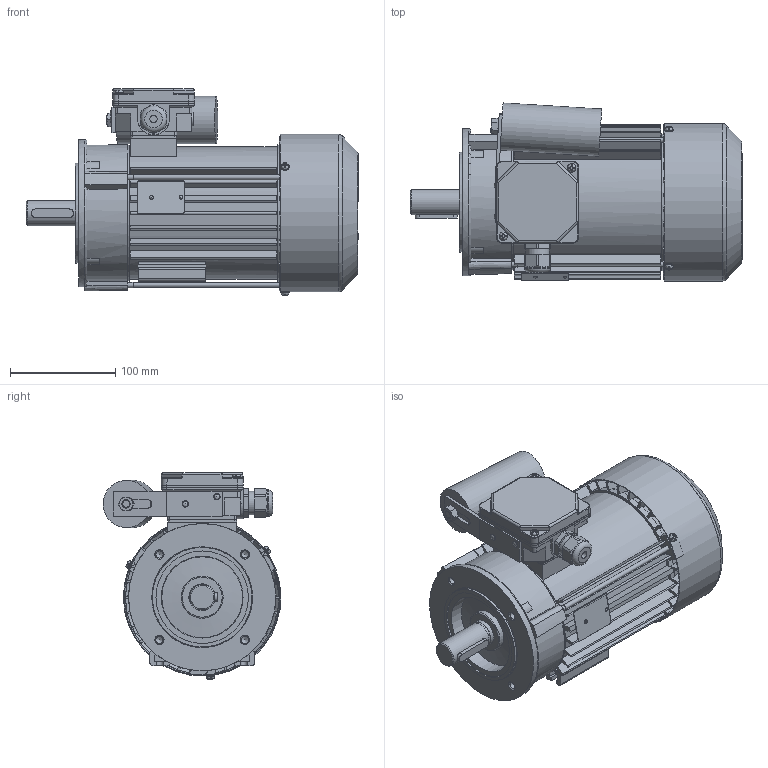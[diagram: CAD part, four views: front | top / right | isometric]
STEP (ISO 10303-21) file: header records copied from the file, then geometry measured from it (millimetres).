
FILE_DESCRIPTION( ( 'Unknown' ), '1' );
FILE_NAME( 'G:/Poczta Tk-1/STP/w.m.90/SEh90/SEKh90-.S2.stp', 'Unknown', ( 'K. Szlosek' ), ( 'BESEL S.A.' ), 'PSStep 17.0.49', 'Unknown', ' ' );
FILE_SCHEMA( ( 'AUTOMOTIVE_DESIGN { 1 0 10303 214 1 1 1 1 }' ) );
Length unit declared in the file: millimetre
Products named in the file (46): skrznka zaciskowa jednofazowa ; K4-2820 Uszczelka nr 2 Sh71,80; K2-1131 Podstawa skrzynki zaciskowej jednofazowa; K4-2999 Uchwyt kondensatora; Nit 4x12 po skróceniu; nakrętka M8; K4-0898 Tulejka uszczelniająca; Dławnica M20x1,5; K2-0860 Pokrywka skrzynki zaciskowej; Assem1; K1-1257 Kadłub S(E,M)h80-C i D; K2-1715 Przewietrznik; Wpust A8x7x40; K3-7808 Wał Sh90-.S; Wkręt samogwintujący M4x12; Tabliczka znamionowa 32x44; Kondensator zb 25-31,5uF Comar; K4-4489 Osłona przewietrznika Sh80,90-A,C; K4-2320 Uszczelka nr 1 Sh71,80; K2-2027 Tarcza łożyskowa P S(E,M)h80-.A,C; Wkręt samogwintujący M4x8; Łożysko 6205; Łożysko 6204; Śruba ściągająca E_M5x168; Nitokołek A 2x6; K3-7773 Tarcza kołnierzowa B14_2 SKh90-..2
Assembly tree (52 placements, depth 3):
  Assem1
    K1-1257 Kadłub S(E,M)h80-C i D
    K2-1715 Przewietrznik
    Wpust A8x7x40
    K3-7808 Wał Sh90-.S
    Wkręt samogwintujący M4x12  x2
    Tabliczka znamionowa 32x44
    Kondensator zb 25-31,5uF Comar
    K4-4489 Osłona przewietrznika Sh80,90-A,C
    K4-2320 Uszczelka nr 1 Sh71,80
    K2-2027 Tarcza łożyskowa P S(E,M)h80-.A,C
    Wkręt samogwintujący M4x8  x3
    Łożysko 6205
    Łożysko 6205
    Łożysko 6205
    Łożysko 6205
    Łożysko 6205
    Łożysko 6205
    Łożysko 6205
    Łożysko 6205
    Łożysko 6205
    Łożysko 6205
    Łożysko 6205
    Łożysko 6205
    Łożysko 6204
    Łożysko 6204
    Łożysko 6204
    Łożysko 6204
    Łożysko 6204
    Łożysko 6204
    Łożysko 6204
    Łożysko 6204
    Łożysko 6204
    Łożysko 6204
    Śruba ściągająca E_M5x168  x3
    Nitokołek A 2x6  x2
    K3-7773 Tarcza kołnierzowa B14_2 SKh90-..2
    skrznka zaciskowa jednofazowa 
      K4-2820 Uszczelka nr 2 Sh71,80
      K2-1131 Podstawa skrzynki zaciskowej jednofazowa
      K4-2999 Uchwyt kondensatora
      Nit 4x12 po skróceniu  x2
      nakrętka M8
      K4-0898 Tulejka uszczelniająca
      Dławnica M20x1,5
      K2-0860 Pokrywka skrzynki zaciskowej
Bounding box: 315.8 x 169.24 x 196.68 mm (x, y, z)
Volume: 1115693.4 mm3; surface area: 606222.5 mm2
Topology: 51 solids, 69 shells, 2647 faces, 7210 edges, 4633 vertices
Faces by surface type: plane 1242, cylinder 810, bspline 231, cone 169, torus 155, sphere 40
Full cylindrical faces by diameter (mm): 2 x2, 2.4 x2, 3 x2, 3.7 x11, 4 x7, 4.2 x3, 4.3 x2, 4.5 x3, 4.6 x3, 4.8 x4, 5 x7, 5.5 x3, 6 x2, 6.5 x1, 6.647 x1, 6.8 x4, 7 x1, 8 x10, 10 x2, 18.376 x1, 18.38 x1, 19.3 x1, 19.5 x2, 19.6 x1, 19.9 x1, 20 x3, 20.4 x1, 22.3 x1, 23.6 x1, 24 x1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
Entity records: 138229 total; most frequent: CARTESIAN_POINT 58237, ORIENTED_EDGE 12830, DIRECTION 12100, EDGE_CURVE 6415, AXIS2_PLACEMENT_3D 4536, VERTEX_POINT 4349, LINE 3028, VECTOR 3028
